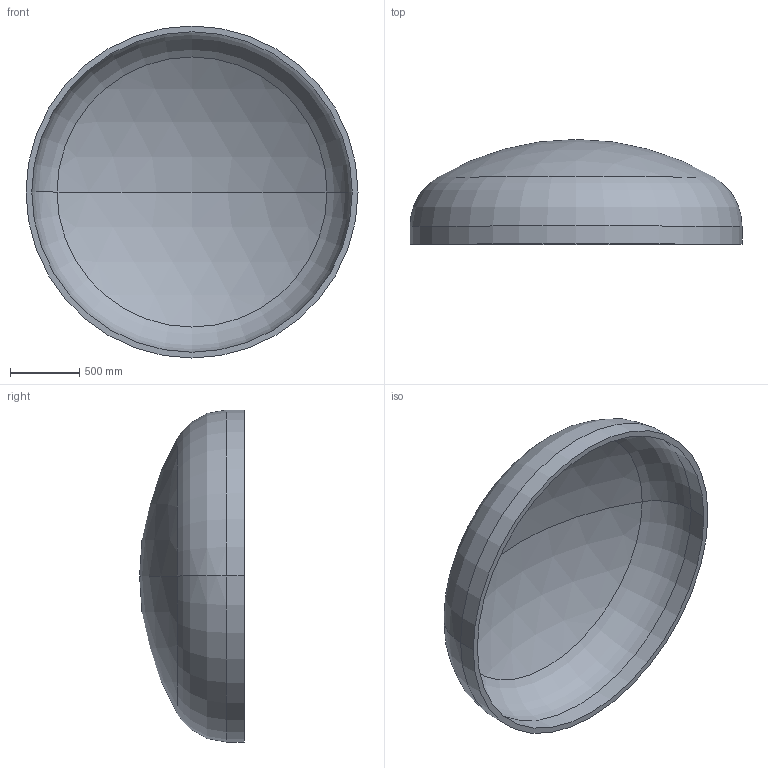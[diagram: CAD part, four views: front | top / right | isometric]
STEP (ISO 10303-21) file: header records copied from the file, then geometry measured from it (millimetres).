
FILE_DESCRIPTION (( 'STEP AP203' ), '1' );
FILE_NAME ('DIN 28013 Korbbogenform_-_Boden DIN 28013 - 2400 x 130 - I - s=42.step', '2016-07-01T15:22:21', ( '' ), ( '' ), 'SwSTEP 2.0', 'SolidWorks 2013', '' );
FILE_SCHEMA (( 'CONFIG_CONTROL_DESIGN' ));
Length unit declared in the file: millimetre
Products named in the file (1): DIN 28013 Korbbogenform_-_Boden DIN 28013 - 2400 x 130 - I - s=42
Bounding box: 2400 x 757.25 x 2400 mm (x, y, z)
Volume: 297650941.1 mm3; surface area: 14488674.9 mm2
Topology: 1 solids, 1 shells, 13 faces, 24 edges, 14 vertices
Faces by surface type: torus 4, cylinder 4, sphere 4, plane 1
Entity records: 407 total; most frequent: DIRECTION 72, CARTESIAN_POINT 52, ORIENTED_EDGE 48, AXIS2_PLACEMENT_3D 34, EDGE_CURVE 24, CIRCLE 20, EDGE_LOOP 14, VERTEX_POINT 14
